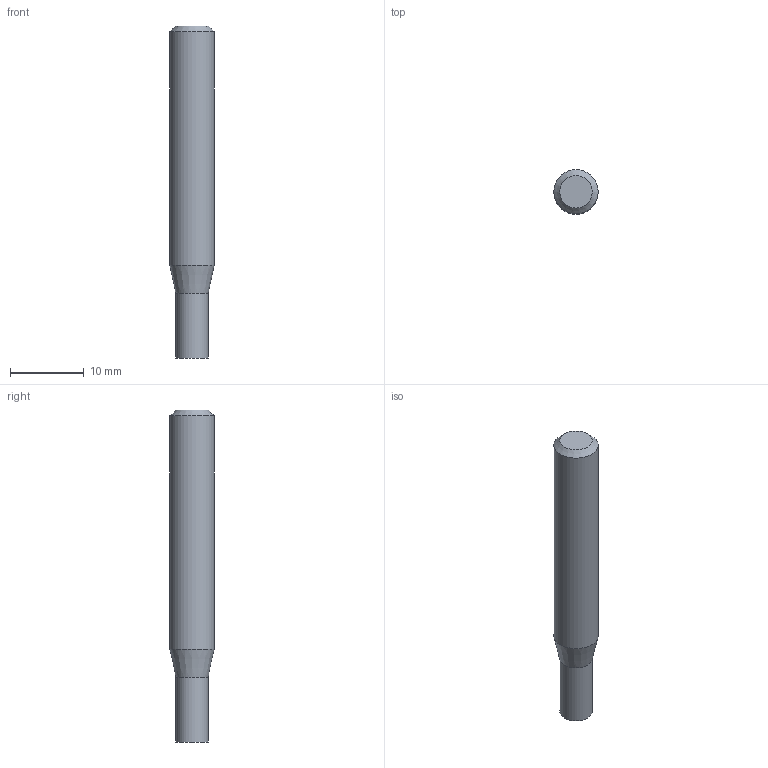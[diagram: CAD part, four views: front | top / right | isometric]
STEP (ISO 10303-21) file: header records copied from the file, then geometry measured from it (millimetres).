
FILE_DESCRIPTION((''),'2;1');
FILE_NAME('C:\Users\nsx150\AppData\Local\Temp\Mastercam 2021\E36A1X9CCL\TEMP.step','2023-04-21T15:12:58',(''),(''),'STEP Write','Mastercam 2021 ... CNC Software, Inc.','');
FILE_SCHEMA(('AUTOMOTIVE_DESIGN'));
Length unit declared in the file: millimetre
Products named in the file (1): None
Bounding box: 6 x 6 x 45 mm (x, y, z)
Volume: 1126 mm3; surface area: 860.1 mm2
Topology: 2 solids, 2 shells, 8 faces, 10 edges, 6 vertices
Faces by surface type: plane 4, cylinder 2, cone 2
Full cylindrical faces by diameter (mm): 4.4 x1, 6 x1
Entity records: 190 total; most frequent: DIRECTION 32, CARTESIAN_POINT 22, AXIS2_PLACEMENT_3D 16, ORIENTED_EDGE 12, EDGE_LOOP 12, STYLED_ITEM 11, ADVANCED_FACE 8, VERTEX_POINT 6
